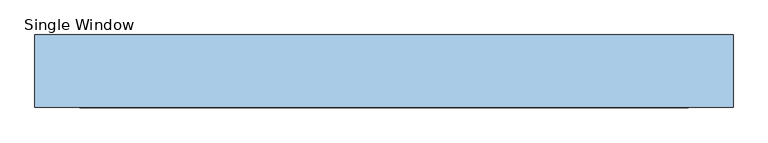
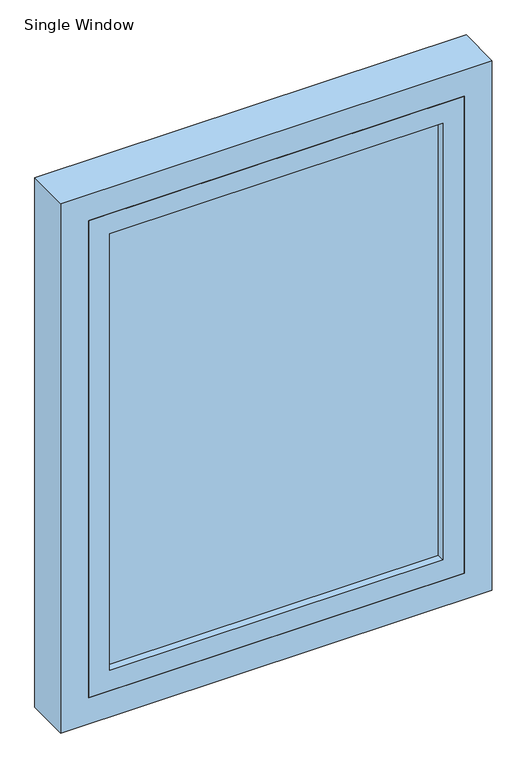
"""IFC4 building model written with IfcOpenShell, lengths in millimetres: window geometry, Single Window : 10x13 Inåtgående."""

from ifc_helpers import new_model, si_unit, frame, origin, place, context, project, spatial, polyline, outline, extrude, source, transform, mapped, element, save


def single_window_b4f624ed(model_context):
    return source(origin(), model_context, "Body", "SweptSolid", [
        extrude(outline(polyline([(2045.0, 510.0), (2045.0, -370.0), (865.0, -370.0), (865.0, 510.0), (2045.0, 510.0)]), holes=[polyline([(915.0, 460.0), (915.0, -320.0), (1995.0, -320.0), (1995.0, 460.0), (915.0, 460.0)])]), frame((0.0, -25.0, 0.0), z_axis=(0.0, 1.0, 0.0), x_axis=(0.0, 0.0, 1.0)), (0.0, 0.0, 1.0), 52.5),
        extrude(outline(polyline([(460.0, -6.75), (-320.0, -6.75), (-320.0, 9.25), (460.0, 9.25), (460.0, -6.75)])), frame((0.0, 0.0, 915.0), z_axis=(0.0, 0.0, 1.0), x_axis=(1.0, 0.0, 0.0)), (0.0, 0.0, 1.0), 1080.0),
        extrude(outline(polyline([(800.0, -435.0), (800.0, 575.0), (2110.0, 575.0), (2110.0, -435.0), (800.0, -435.0)]), holes=[polyline([(865.0, 510.0), (865.0, -370.0), (2045.0, -370.0), (2045.0, 510.0), (865.0, 510.0)])]), frame((0.0, -25.0, 0.0), z_axis=(0.0, 1.0, 0.0), x_axis=(0.0, 0.0, 1.0)), (0.0, 0.0, 1.0), 105.0),
    ])


if __name__ == "__main__":
    model = new_model("IFC4")
    model_context = context("Model", 3, world=origin())
    ifc_project = project(units=[si_unit("LENGTHUNIT", "METRE", prefix="MILLI")], contexts=[model_context])
    site = spatial("IfcSite", under=ifc_project)
    building = spatial("IfcBuilding", under=site)
    placement = place(None, origin())
    single_window_shape = single_window_b4f624ed(model_context)
    element("IfcWindow", 1, ObjectType="Single Window : 10x13 Inåtgående", at=placement, inside=building, context=model_context, shape_type="MappedRepresentation", body=[
        mapped(single_window_shape, transform((0.0, 0.0, 0.0), x_axis=(1.0, 0.0, 0.0), y_axis=(0.0, 1.0, 0.0), z_axis=(0.0, 0.0, 1.0))),
    ])
    save(model, "model.ifc")
